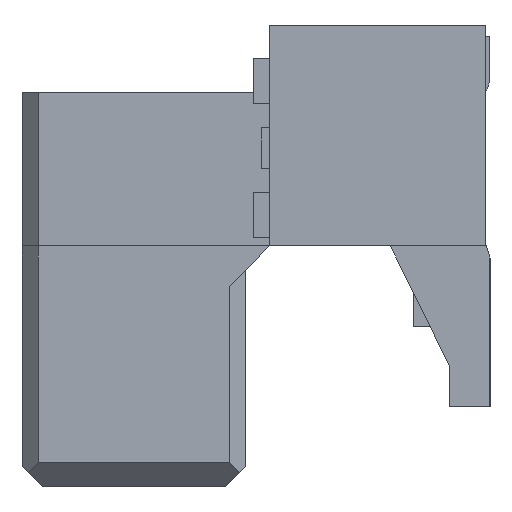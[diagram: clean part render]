
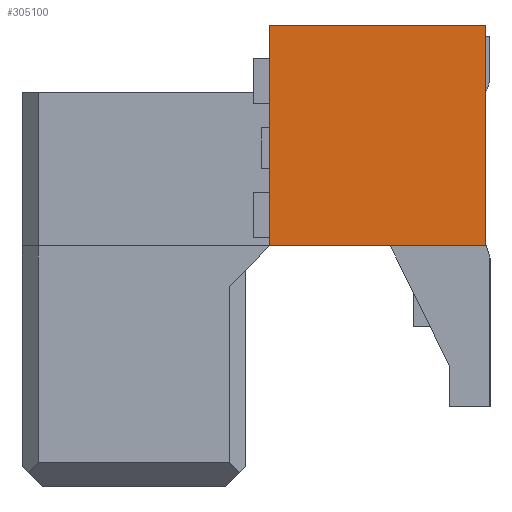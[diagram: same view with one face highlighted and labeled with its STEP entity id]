
A CAD part, left-side view. The second image highlights one B-rep face of the part: STEP entity #305100.
In plain terms, the highlighted planar face has unit normal (-1, 0, 0) as drawn and (0, 0, 1) by its records, which use the part's own axes.
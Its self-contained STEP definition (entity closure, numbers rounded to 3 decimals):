
#283270=CARTESIAN_POINT('',(1.86,4.99,
13.613));
#283280=VERTEX_POINT('',#283270);
#283310=CARTESIAN_POINT('',(0.,4.99,13.613));
#283320=DIRECTION('',(-1.,0.,0.));
#283330=VECTOR('',#283320,1.);
#283340=LINE('',#283310,#283330);
#283350=CARTESIAN_POINT('',(-0.89,4.99,
13.613));
#283360=VERTEX_POINT('',#283350);
#283370=EDGE_CURVE('',#283280,#283360,#283340,.T.);
#286910=CARTESIAN_POINT('',(1.86,2.29,
13.613));
#286920=VERTEX_POINT('',#286910);
#286950=CARTESIAN_POINT('',(1.86,0.,13.613));
#286960=DIRECTION('',(0.,1.,0.));
#286970=VECTOR('',#286960,1.);
#286980=LINE('',#286950,#286970);
#286990=EDGE_CURVE('',#286920,#283280,#286980,.T.);
#304870=CARTESIAN_POINT('',(-0.959,2.017,
13.613));
#304880=DIRECTION('',(0.,0.,1.));
#304890=DIRECTION('',(1.,0.,0.));
#304900=AXIS2_PLACEMENT_3D('',#304870,#304880,#304890);
#304910=PLANE('',#304900);
#304920=ORIENTED_EDGE('',*,*,#286990,.T.);
#304930=CARTESIAN_POINT('',(0.,2.29,13.613));
#304940=DIRECTION('',(1.,0.,0.));
#304950=VECTOR('',#304940,1.);
#304960=LINE('',#304930,#304950);
#304970=CARTESIAN_POINT('',(-0.89,2.29,
13.613));
#304980=VERTEX_POINT('',#304970);
#304990=EDGE_CURVE('',#304980,#286920,#304960,.T.);
#305000=ORIENTED_EDGE('',*,*,#304990,.T.);
#305010=CARTESIAN_POINT('',(-0.89,0.,13.613));
#305020=DIRECTION('',(0.,-1.,0.));
#305030=VECTOR('',#305020,1.);
#305040=LINE('',#305010,#305030);
#305050=EDGE_CURVE('',#283360,#304980,#305040,.T.);
#305060=ORIENTED_EDGE('',*,*,#305050,.T.);
#305070=ORIENTED_EDGE('',*,*,#283370,.T.);
#305080=EDGE_LOOP('',(#305070,#305060,#305000,#304920));
#305090=FACE_OUTER_BOUND('',#305080,.T.);
#305100=ADVANCED_FACE('',(#305090),#304910,.T.);
